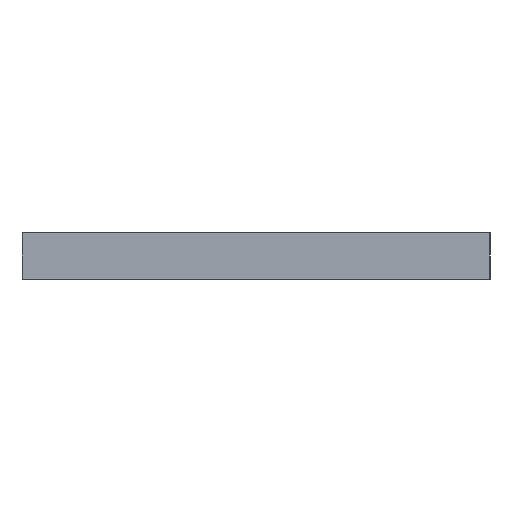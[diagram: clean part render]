
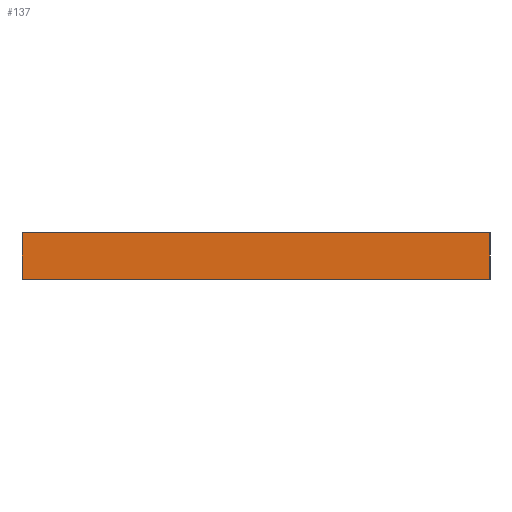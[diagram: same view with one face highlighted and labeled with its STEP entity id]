
A CAD part, left-side view. The second image highlights one B-rep face of the part: STEP entity #137.
In plain terms, the highlighted planar face has unit normal (-1, 0, 0).
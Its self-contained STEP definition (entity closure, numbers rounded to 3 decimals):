
#21 = EDGE_CURVE('',#22,#24,#26,.T.);
#22 = VERTEX_POINT('',#23);
#23 = CARTESIAN_POINT('',(0.,0.,0.));
#24 = VERTEX_POINT('',#25);
#25 = CARTESIAN_POINT('',(0.,0.,2.));
#26 = SURFACE_CURVE('',#27,(#31,#43),.PCURVE_S1.);
#27 = LINE('',#28,#29);
#28 = CARTESIAN_POINT('',(0.,0.,0.));
#29 = VECTOR('',#30,1.);
#30 = DIRECTION('',(0.,0.,1.));
#31 = PCURVE('',#32,#37);
#32 = PLANE('',#33);
#33 = AXIS2_PLACEMENT_3D('',#34,#35,#36);
#34 = CARTESIAN_POINT('',(0.,0.,0.));
#35 = DIRECTION('',(0.,1.,0.));
#36 = DIRECTION('',(1.,0.,0.));
#37 = DEFINITIONAL_REPRESENTATION('',(#38),#42);
#38 = LINE('',#39,#40);
#39 = CARTESIAN_POINT('',(0.,0.));
#40 = VECTOR('',#41,1.);
#41 = DIRECTION('',(0.,-1.));
#42 = ( GEOMETRIC_REPRESENTATION_CONTEXT(2) 
PARAMETRIC_REPRESENTATION_CONTEXT() REPRESENTATION_CONTEXT('2D SPACE',''
  ) );
#43 = PCURVE('',#44,#49);
#44 = PLANE('',#45);
#45 = AXIS2_PLACEMENT_3D('',#46,#47,#48);
#46 = CARTESIAN_POINT('',(0.,20.,0.));
#47 = DIRECTION('',(1.,0.,-0.));
#48 = DIRECTION('',(0.,-1.,0.));
#49 = DEFINITIONAL_REPRESENTATION('',(#50),#54);
#50 = LINE('',#51,#52);
#51 = CARTESIAN_POINT('',(20.,0.));
#52 = VECTOR('',#53,1.);
#53 = DIRECTION('',(0.,-1.));
#54 = ( GEOMETRIC_REPRESENTATION_CONTEXT(2) 
PARAMETRIC_REPRESENTATION_CONTEXT() REPRESENTATION_CONTEXT('2D SPACE',''
  ) );
#72 = PLANE('',#73);
#73 = AXIS2_PLACEMENT_3D('',#74,#75,#76);
#74 = CARTESIAN_POINT('',(77.7,10.,2.));
#75 = DIRECTION('',(0.,0.,1.));
#76 = DIRECTION('',(1.,0.,-0.));
#126 = PLANE('',#127);
#127 = AXIS2_PLACEMENT_3D('',#128,#129,#130);
#128 = CARTESIAN_POINT('',(77.7,10.,0.));
#129 = DIRECTION('',(0.,0.,1.));
#130 = DIRECTION('',(1.,0.,-0.));
#137 = ADVANCED_FACE('',(#138),#44,.F.);
#138 = FACE_BOUND('',#139,.F.);
#139 = EDGE_LOOP('',(#140,#170,#191,#192));
#140 = ORIENTED_EDGE('',*,*,#141,.T.);
#141 = EDGE_CURVE('',#142,#144,#146,.T.);
#142 = VERTEX_POINT('',#143);
#143 = CARTESIAN_POINT('',(0.,20.,0.));
#144 = VERTEX_POINT('',#145);
#145 = CARTESIAN_POINT('',(0.,20.,2.));
#146 = SURFACE_CURVE('',#147,(#151,#158),.PCURVE_S1.);
#147 = LINE('',#148,#149);
#148 = CARTESIAN_POINT('',(0.,20.,0.));
#149 = VECTOR('',#150,1.);
#150 = DIRECTION('',(0.,0.,1.));
#151 = PCURVE('',#44,#152);
#152 = DEFINITIONAL_REPRESENTATION('',(#153),#157);
#153 = LINE('',#154,#155);
#154 = CARTESIAN_POINT('',(0.,0.));
#155 = VECTOR('',#156,1.);
#156 = DIRECTION('',(0.,-1.));
#157 = ( GEOMETRIC_REPRESENTATION_CONTEXT(2) 
PARAMETRIC_REPRESENTATION_CONTEXT() REPRESENTATION_CONTEXT('2D SPACE',''
  ) );
#158 = PCURVE('',#159,#164);
#159 = PLANE('',#160);
#160 = AXIS2_PLACEMENT_3D('',#161,#162,#163);
#161 = CARTESIAN_POINT('',(155.4,20.,0.));
#162 = DIRECTION('',(0.,-1.,0.));
#163 = DIRECTION('',(-1.,0.,0.));
#164 = DEFINITIONAL_REPRESENTATION('',(#165),#169);
#165 = LINE('',#166,#167);
#166 = CARTESIAN_POINT('',(155.4,0.));
#167 = VECTOR('',#168,1.);
#168 = DIRECTION('',(0.,-1.));
#169 = ( GEOMETRIC_REPRESENTATION_CONTEXT(2) 
PARAMETRIC_REPRESENTATION_CONTEXT() REPRESENTATION_CONTEXT('2D SPACE',''
  ) );
#170 = ORIENTED_EDGE('',*,*,#171,.T.);
#171 = EDGE_CURVE('',#144,#24,#172,.T.);
#172 = SURFACE_CURVE('',#173,(#177,#184),.PCURVE_S1.);
#173 = LINE('',#174,#175);
#174 = CARTESIAN_POINT('',(0.,20.,2.));
#175 = VECTOR('',#176,1.);
#176 = DIRECTION('',(0.,-1.,0.));
#177 = PCURVE('',#44,#178);
#178 = DEFINITIONAL_REPRESENTATION('',(#179),#183);
#179 = LINE('',#180,#181);
#180 = CARTESIAN_POINT('',(0.,-2.));
#181 = VECTOR('',#182,1.);
#182 = DIRECTION('',(1.,0.));
#183 = ( GEOMETRIC_REPRESENTATION_CONTEXT(2) 
PARAMETRIC_REPRESENTATION_CONTEXT() REPRESENTATION_CONTEXT('2D SPACE',''
  ) );
#184 = PCURVE('',#72,#185);
#185 = DEFINITIONAL_REPRESENTATION('',(#186),#190);
#186 = LINE('',#187,#188);
#187 = CARTESIAN_POINT('',(-77.7,10.));
#188 = VECTOR('',#189,1.);
#189 = DIRECTION('',(0.,-1.));
#190 = ( GEOMETRIC_REPRESENTATION_CONTEXT(2) 
PARAMETRIC_REPRESENTATION_CONTEXT() REPRESENTATION_CONTEXT('2D SPACE',''
  ) );
#191 = ORIENTED_EDGE('',*,*,#21,.F.);
#192 = ORIENTED_EDGE('',*,*,#193,.F.);
#193 = EDGE_CURVE('',#142,#22,#194,.T.);
#194 = SURFACE_CURVE('',#195,(#199,#206),.PCURVE_S1.);
#195 = LINE('',#196,#197);
#196 = CARTESIAN_POINT('',(0.,20.,0.));
#197 = VECTOR('',#198,1.);
#198 = DIRECTION('',(0.,-1.,0.));
#199 = PCURVE('',#44,#200);
#200 = DEFINITIONAL_REPRESENTATION('',(#201),#205);
#201 = LINE('',#202,#203);
#202 = CARTESIAN_POINT('',(0.,0.));
#203 = VECTOR('',#204,1.);
#204 = DIRECTION('',(1.,0.));
#205 = ( GEOMETRIC_REPRESENTATION_CONTEXT(2) 
PARAMETRIC_REPRESENTATION_CONTEXT() REPRESENTATION_CONTEXT('2D SPACE',''
  ) );
#206 = PCURVE('',#126,#207);
#207 = DEFINITIONAL_REPRESENTATION('',(#208),#212);
#208 = LINE('',#209,#210);
#209 = CARTESIAN_POINT('',(-77.7,10.));
#210 = VECTOR('',#211,1.);
#211 = DIRECTION('',(0.,-1.));
#212 = ( GEOMETRIC_REPRESENTATION_CONTEXT(2) 
PARAMETRIC_REPRESENTATION_CONTEXT() REPRESENTATION_CONTEXT('2D SPACE',''
  ) );
